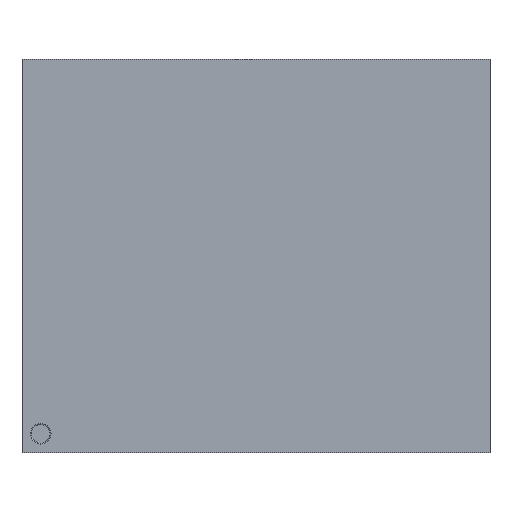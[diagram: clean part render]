
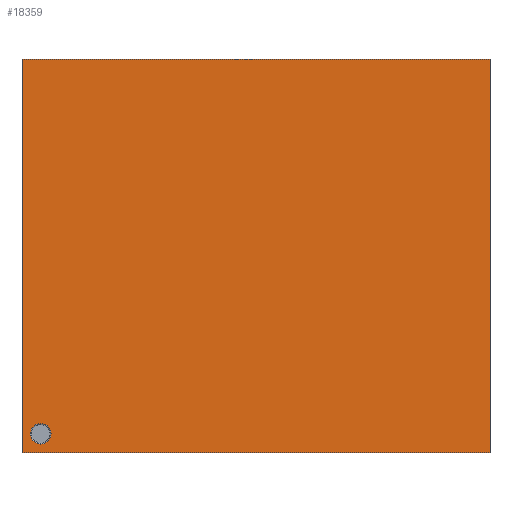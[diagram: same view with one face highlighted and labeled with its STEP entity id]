
A CAD part, top view. The second image highlights one B-rep face of the part: STEP entity #18359.
In plain terms, the highlighted planar face has unit normal (0, 0, 1).
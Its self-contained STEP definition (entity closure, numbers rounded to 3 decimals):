
#18170 = CARTESIAN_POINT ( 'NONE',  ( -11.5, -8.95, 5.38 ) ) ;
#18171 = VERTEX_POINT ( 'NONE', #18170 ) ;
#18172 = CARTESIAN_POINT ( 'NONE',  ( -11.5, -10.05, 5.38 ) ) ;
#18173 = VERTEX_POINT ( 'NONE', #18172 ) ;
#18174 = CARTESIAN_POINT ( 'NONE',  ( -11.5, -9.5, 5.38 ) ) ;
#18175 = DIRECTION ( 'NONE',  ( 0., 0., -1. ) ) ;
#18176 = DIRECTION ( 'NONE',  ( 0., -1., 0. ) ) ;
#18177 = AXIS2_PLACEMENT_3D ( 'NONE', #18174, #18175, #18176 ) ;
#18178 = CIRCLE ( 'NONE', #18177, 0.55) ;
#18179 = EDGE_CURVE ( 'NONE', #18171, #18173, #18178, .T. ) ;
#18224 = CARTESIAN_POINT ( 'NONE',  ( -12.5, -10.5, 5.38 ) ) ;
#18225 = VERTEX_POINT ( 'NONE', #18224 ) ;
#18232 = CARTESIAN_POINT ( 'NONE',  ( -12.5, 10.5, 5.38 ) ) ;
#18233 = VERTEX_POINT ( 'NONE', #18232 ) ;
#18234 = CARTESIAN_POINT ( 'NONE',  ( -12.5, -10.5, 5.38 ) ) ;
#18235 = DIRECTION ( 'NONE',  ( 0., -1., 0. ) ) ;
#18236 = VECTOR ( 'NONE', #18235, 1000. ) ;
#18237 = LINE ( 'NONE', #18234, #18236 ) ;
#18238 = EDGE_CURVE ( 'NONE', #18233, #18225, #18237, .T. ) ;
#18262 = CARTESIAN_POINT ( 'NONE',  ( 12.5, -10.5, 5.38 ) ) ;
#18263 = VERTEX_POINT ( 'NONE', #18262 ) ;
#18270 = CARTESIAN_POINT ( 'NONE',  ( 12.5, -10.5, 5.38 ) ) ;
#18271 = DIRECTION ( 'NONE',  ( 1., 0., 0. ) ) ;
#18272 = VECTOR ( 'NONE', #18271, 1000. ) ;
#18273 = LINE ( 'NONE', #18270, #18272 ) ;
#18274 = EDGE_CURVE ( 'NONE', #18225, #18263, #18273, .T. ) ;
#18293 = CARTESIAN_POINT ( 'NONE',  ( 12.5, 10.5, 5.38 ) ) ;
#18294 = VERTEX_POINT ( 'NONE', #18293 ) ;
#18301 = CARTESIAN_POINT ( 'NONE',  ( 12.5, -10.5, 5.38 ) ) ;
#18302 = DIRECTION ( 'NONE',  ( 0., 1., 0. ) ) ;
#18303 = VECTOR ( 'NONE', #18302, 1000. ) ;
#18304 = LINE ( 'NONE', #18301, #18303 ) ;
#18305 = EDGE_CURVE ( 'NONE', #18263, #18294, #18304, .T. ) ;
#18323 = CARTESIAN_POINT ( 'NONE',  ( 12.5, 10.5, 5.38 ) ) ;
#18324 = DIRECTION ( 'NONE',  ( -1., 0., 0. ) ) ;
#18325 = VECTOR ( 'NONE', #18324, 1000. ) ;
#18326 = LINE ( 'NONE', #18323, #18325 ) ;
#18327 = EDGE_CURVE ( 'NONE', #18294, #18233, #18326, .T. ) ;
#18338 = CARTESIAN_POINT ( 'NONE',  ( -11.5, -9.5, 5.38 ) ) ;
#18339 = DIRECTION ( 'NONE',  ( 0., 0., -1. ) ) ;
#18340 = DIRECTION ( 'NONE',  ( 0., -1., 0. ) ) ;
#18341 = AXIS2_PLACEMENT_3D ( 'NONE', #18338, #18339, #18340 ) ;
#18342 = CIRCLE ( 'NONE', #18341, 0.55) ;
#18343 = EDGE_CURVE ( 'NONE', #18173, #18171, #18342, .T. ) ;
#18344 = ORIENTED_EDGE ( 'NONE', *, *, #18343, .T. ) ;
#18345 = ORIENTED_EDGE ( 'NONE', *, *, #18179, .T. ) ;
#18346 = EDGE_LOOP ( 'NONE', ( #18344, #18345 ) ) ;
#18347 = FACE_BOUND ( 'NONE', #18346, .T. ) ;
#18348 = ORIENTED_EDGE ( 'NONE', *, *, #18238, .T. ) ;
#18349 = ORIENTED_EDGE ( 'NONE', *, *, #18274, .T. ) ;
#18350 = ORIENTED_EDGE ( 'NONE', *, *, #18305, .T. ) ;
#18351 = ORIENTED_EDGE ( 'NONE', *, *, #18327, .T. ) ;
#18352 = EDGE_LOOP ( 'NONE', ( #18348, #18349, #18350, #18351 ) ) ;
#18353 = FACE_OUTER_BOUND ( 'NONE', #18352, .T. ) ;
#18354 = CARTESIAN_POINT ( 'NONE',  ( 0., 0., 5.38 ) ) ;
#18355 = DIRECTION ( 'NONE',  ( 0., 0., 1. ) ) ;
#18356 = DIRECTION ( 'NONE',  ( 0., -1., 0. ) ) ;
#18357 = AXIS2_PLACEMENT_3D ( 'NONE', #18354, #18355, #18356 ) ;
#18358 = PLANE ( 'NONE', #18357 ) ;
#18359 = ADVANCED_FACE ( 'NONE', ( #18347, #18353 ), #18358, .T. ) ;
